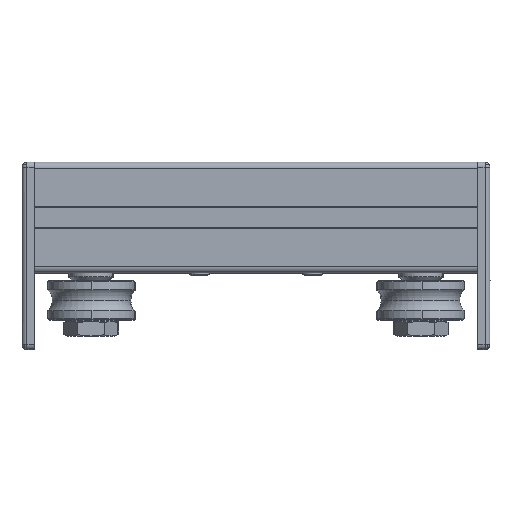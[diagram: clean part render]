
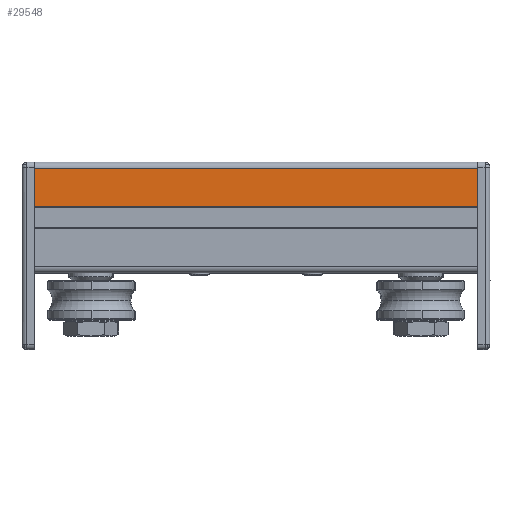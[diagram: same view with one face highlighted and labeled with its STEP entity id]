
A CAD part, top view. The second image highlights one B-rep face of the part: STEP entity #29548.
In plain terms, the highlighted planar face has unit normal (0, 0, 1).
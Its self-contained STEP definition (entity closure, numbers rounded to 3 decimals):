
#2571 = CARTESIAN_POINT ( 'NONE',  ( 180., 4.4, 22.5 ) ) ;
#7840 = VECTOR ( 'NONE', #45366, 1000. ) ;
#7952 = CARTESIAN_POINT ( 'NONE',  ( 180., 20., 22.5 ) ) ;
#8598 = VERTEX_POINT ( 'NONE', #39804 ) ;
#9665 = VECTOR ( 'NONE', #60548, 1000. ) ;
#10055 = CARTESIAN_POINT ( 'NONE',  ( 180., 20., 22.5 ) ) ;
#15691 = PLANE ( 'NONE',  #57871 ) ;
#16583 = ORIENTED_EDGE ( 'NONE', *, *, #48425, .F. ) ;
#19266 = VERTEX_POINT ( 'NONE', #40664 ) ;
#21337 = FACE_OUTER_BOUND ( 'NONE', #36797, .T. ) ;
#22607 = ORIENTED_EDGE ( 'NONE', *, *, #74067, .F. ) ;
#23949 = ORIENTED_EDGE ( 'NONE', *, *, #67821, .T. ) ;
#25286 = CARTESIAN_POINT ( 'NONE',  ( 180., 4.4, 22.5 ) ) ;
#28041 = DIRECTION ( 'NONE',  ( 0., 0., -1. ) ) ;
#28456 = CARTESIAN_POINT ( 'NONE',  ( 0., 20., 22.5 ) ) ;
#29548 = ADVANCED_FACE ( 'NONE', ( #21337 ), #15691, .F. ) ;
#34620 = EDGE_CURVE ( 'NONE', #8598, #68297, #57703, .T. ) ;
#36797 = EDGE_LOOP ( 'NONE', ( #63414, #16583, #22607, #23949 ) ) ;
#37591 = DIRECTION ( 'NONE',  ( 0., -1., 0. ) ) ;
#37683 = LINE ( 'NONE', #25286, #9665 ) ;
#39804 = CARTESIAN_POINT ( 'NONE',  ( 0., 20., 22.5 ) ) ;
#40664 = CARTESIAN_POINT ( 'NONE',  ( 180., 20., 22.5 ) ) ;
#45366 = DIRECTION ( 'NONE',  ( 0., -1., 0. ) ) ;
#48425 = EDGE_CURVE ( 'NONE', #69206, #68297, #37683, .T. ) ;
#53897 = VECTOR ( 'NONE', #37591, 1000. ) ;
#54821 = LINE ( 'NONE', #71302, #53897 ) ;
#57703 = LINE ( 'NONE', #28456, #7840 ) ;
#57871 = AXIS2_PLACEMENT_3D ( 'NONE', #10055, #28041, #73810 ) ;
#60548 = DIRECTION ( 'NONE',  ( -1., 0., 0. ) ) ;
#63414 = ORIENTED_EDGE ( 'NONE', *, *, #34620, .T. ) ;
#67821 = EDGE_CURVE ( 'NONE', #19266, #8598, #72049, .T. ) ;
#68297 = VERTEX_POINT ( 'NONE', #74214 ) ;
#69206 = VERTEX_POINT ( 'NONE', #2571 ) ;
#70558 = DIRECTION ( 'NONE',  ( -1., 0., 0. ) ) ;
#70633 = VECTOR ( 'NONE', #70558, 1000. ) ;
#71302 = CARTESIAN_POINT ( 'NONE',  ( 180., 20., 22.5 ) ) ;
#72049 = LINE ( 'NONE', #7952, #70633 ) ;
#73810 = DIRECTION ( 'NONE',  ( -1., 0., 0. ) ) ;
#74067 = EDGE_CURVE ( 'NONE', #19266, #69206, #54821, .T. ) ;
#74214 = CARTESIAN_POINT ( 'NONE',  ( 0., 4.4, 22.5 ) ) ;
